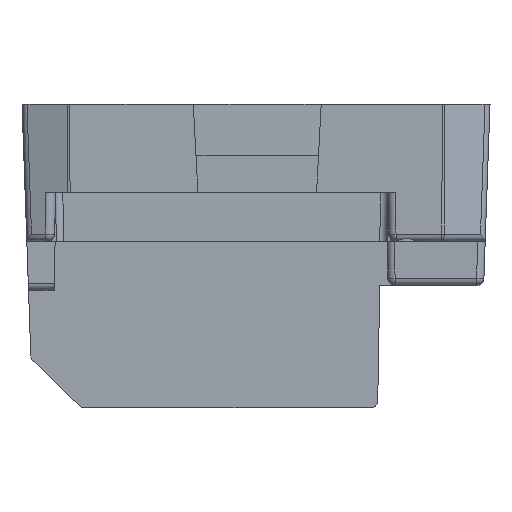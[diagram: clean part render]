
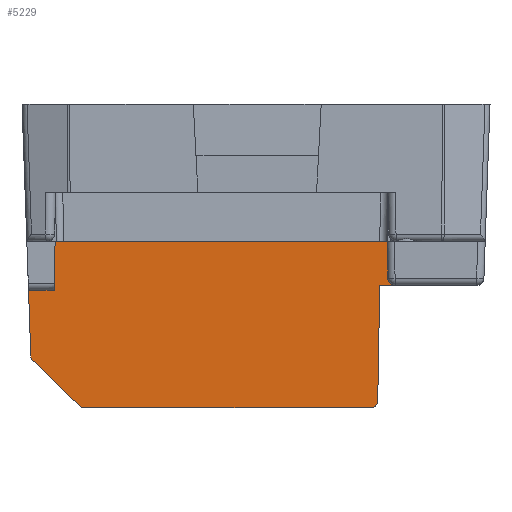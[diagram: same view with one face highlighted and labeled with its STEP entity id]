
A CAD part, left-side view. The second image highlights one B-rep face of the part: STEP entity #5229.
In plain terms, the highlighted planar face has unit normal (-1, 0, -0.017) by its records, which use the part's own axes.
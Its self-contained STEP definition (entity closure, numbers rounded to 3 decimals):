
#393=DIRECTION('',(-0.017,0.035,0.999));
#394=VECTOR('',#393,4.684);
#395=CARTESIAN_POINT('',(-13.118,18.741,-10.28));
#396=LINE('',#395,#394);
#764=DIRECTION('',(0.,1.,0.));
#765=VECTOR('',#764,0.638);
#766=CARTESIAN_POINT('',(-13.2,0.196,-5.6));
#767=LINE('',#766,#765);
#844=DIRECTION('',(0.,1.,0.));
#845=VECTOR('',#844,0.788);
#846=CARTESIAN_POINT('',(-13.2,18.116,-5.6));
#847=LINE('',#846,#845);
#946=CARTESIAN_POINT('',(-13.169,0.548,-7.4));
#947=CARTESIAN_POINT('',(-13.169,0.452,-7.4));
#948=CARTESIAN_POINT('',(-13.17,0.328,
-7.328));
#949=CARTESIAN_POINT('',(-13.172,0.252,
-7.207));
#950=CARTESIAN_POINT('',(-13.174,0.248,
-7.11));
#955=DIRECTION('',(-0.017,-0.017,1.));
#956=VECTOR('',#955,4.707);
#957=CARTESIAN_POINT('',(-13.086,4.582,-12.105));
#958=LINE('',#957,#956);
#962=CARTESIAN_POINT('',(-13.081,4.882,-12.4));
#963=CARTESIAN_POINT('',(-13.081,4.784,-12.4));
#964=CARTESIAN_POINT('',(-13.083,4.66,-12.326));
#965=CARTESIAN_POINT('',(-13.085,4.584,-12.203));
#966=CARTESIAN_POINT('',(-13.086,4.582,-12.105));
#971=CARTESIAN_POINT('',(-13.083,16.754,-12.316));
#972=CARTESIAN_POINT('',(-13.082,16.696,-12.372));
#973=CARTESIAN_POINT('',(-13.081,16.627,-12.4));
#974=CARTESIAN_POINT('',(-13.081,16.546,-12.4));
#979=DIRECTION('',(0.012,-0.719,-0.695));
#980=VECTOR('',#979,2.635);
#981=CARTESIAN_POINT('',(-13.115,18.65,-10.485));
#982=LINE('',#981,#980);
#986=CARTESIAN_POINT('',(-13.118,18.741,-10.28));
#987=CARTESIAN_POINT('',(-13.117,18.738,-10.361));
#988=CARTESIAN_POINT('',(-13.116,18.708,-10.429));
#989=CARTESIAN_POINT('',(-13.115,18.65,-10.485));
#1085=DIRECTION('',(0.017,-0.017,-1.));
#1086=VECTOR('',#1085,3.806);
#1087=CARTESIAN_POINT('',(-13.272,1.2,-1.5));
#1088=LINE('',#1087,#1086);
#2376=DIRECTION('',(-0.017,-0.035,0.999));
#2377=VECTOR('',#2376,1.512);
#2378=CARTESIAN_POINT('',(-13.174,0.248,
-7.11));
#2379=LINE('',#2378,#2377);
#2537=DIRECTION('',(0.,1.,0.));
#2538=VECTOR('',#2537,16.55);
#2539=CARTESIAN_POINT('',(-13.272,1.2,-1.5));
#2540=LINE('',#2539,#2538);
#2922=CARTESIAN_POINT('',(-13.2,0.834,-5.6));
#2923=CARTESIAN_POINT('',(-13.2,0.932,-5.6));
#2924=CARTESIAN_POINT('',(-13.201,1.056,
-5.526));
#2925=CARTESIAN_POINT('',(-13.203,1.132,
-5.403));
#2926=CARTESIAN_POINT('',(-13.205,1.134,
-5.305));
#2964=CARTESIAN_POINT('',(-13.205,17.816,
-5.305));
#2965=CARTESIAN_POINT('',(-13.203,17.818,
-5.403));
#2966=CARTESIAN_POINT('',(-13.201,17.894,
-5.526));
#2967=CARTESIAN_POINT('',(-13.2,18.018,-5.6));
#2968=CARTESIAN_POINT('',(-13.2,18.116,-5.6));
#2987=DIRECTION('',(0.017,0.017,-1.));
#2988=VECTOR('',#2987,3.806);
#2989=CARTESIAN_POINT('',(-13.272,17.75,-1.5));
#2990=LINE('',#2989,#2988);
#3707=DIRECTION('',(0.,-1.,0.));
#3708=VECTOR('',#3707,11.664);
#3709=CARTESIAN_POINT('',(-13.081,16.546,-12.4));
#3710=LINE('',#3709,#3708);
#3800=DIRECTION('',(0.,-1.,0.));
#3801=VECTOR('',#3800,3.952);
#3802=CARTESIAN_POINT('',(-13.169,4.5,-7.4));
#3803=LINE('',#3802,#3801);
#4243=CARTESIAN_POINT('',(-13.272,1.2,-1.5));
#4244=CARTESIAN_POINT('',(-13.272,17.75,-1.5));
#4245=VERTEX_POINT('',#4243);
#4246=VERTEX_POINT('',#4244);
#4259=CARTESIAN_POINT('',(-13.2,18.904,-5.6));
#4261=VERTEX_POINT('',#4259);
#4297=VERTEX_POINT('',#986);
#4298=VERTEX_POINT('',#989);
#4299=VERTEX_POINT('',#971);
#4300=VERTEX_POINT('',#974);
#4301=VERTEX_POINT('',#962);
#4302=VERTEX_POINT('',#966);
#4303=VERTEX_POINT('',#946);
#4304=VERTEX_POINT('',#950);
#4315=CARTESIAN_POINT('',(-13.2,0.196,-5.6));
#4316=VERTEX_POINT('',#4315);
#4317=CARTESIAN_POINT('',(-13.169,4.5,-7.4));
#4318=VERTEX_POINT('',#4317);
#4447=CARTESIAN_POINT('',(-13.205,1.134,
-5.305));
#4449=VERTEX_POINT('',#4447);
#4451=CARTESIAN_POINT('',(-13.2,0.834,-5.6));
#4453=VERTEX_POINT('',#4451);
#4461=CARTESIAN_POINT('',(-13.2,18.116,-5.6));
#4462=VERTEX_POINT('',#4461);
#4463=CARTESIAN_POINT('',(-13.205,17.816,
-5.305));
#4464=VERTEX_POINT('',#4463);
#5192=CARTESIAN_POINT('',(-13.2,-0.684,-5.6));
#5193=DIRECTION('',(-1.,0.,-0.017));
#5194=DIRECTION('',(0.,1.,0.));
#5195=AXIS2_PLACEMENT_3D('',#5192,#5193,#5194);
#5196=PLANE('',#5195);
#5198=ORIENTED_EDGE('',*,*,#5197,.T.);
#5200=ORIENTED_EDGE('',*,*,#5199,.F.);
#5201=ORIENTED_EDGE('',*,*,#5105,.F.);
#5203=ORIENTED_EDGE('',*,*,#5202,.F.);
#5205=ORIENTED_EDGE('',*,*,#5204,.F.);
#5207=ORIENTED_EDGE('',*,*,#5206,.F.);
#5209=ORIENTED_EDGE('',*,*,#5208,.F.);
#5211=ORIENTED_EDGE('',*,*,#5210,.F.);
#5213=ORIENTED_EDGE('',*,*,#5212,.F.);
#5215=ORIENTED_EDGE('',*,*,#5214,.F.);
#5217=ORIENTED_EDGE('',*,*,#5216,.F.);
#5218=ORIENTED_EDGE('',*,*,#5185,.F.);
#5219=ORIENTED_EDGE('',*,*,#4934,.T.);
#5220=ORIENTED_EDGE('',*,*,#5125,.F.);
#5222=ORIENTED_EDGE('',*,*,#5221,.F.);
#5224=ORIENTED_EDGE('',*,*,#5223,.F.);
#5226=ORIENTED_EDGE('',*,*,#5225,.F.);
#5227=EDGE_LOOP('',(#5198,#5200,#5201,#5203,#5205,#5207,#5209,#5211,#5213,#5215,
#5217,#5218,#5219,#5220,#5222,#5224,#5226));
#5228=FACE_OUTER_BOUND('',#5227,.F.);
#5229=ADVANCED_FACE('',(#5228),#5196,.T.);
#951=B_SPLINE_CURVE_WITH_KNOTS('',3,(#946,#947,#948,#949,#950),.UNSPECIFIED.,
.F.,.F.,(4,1,4),(0.,0.5,1.),.UNSPECIFIED.);
#967=B_SPLINE_CURVE_WITH_KNOTS('',3,(#962,#963,#964,#965,#966),.UNSPECIFIED.,
.F.,.F.,(4,1,4),(0.,0.5,1.),.UNSPECIFIED.);
#975=B_SPLINE_CURVE_WITH_KNOTS('',3,(#971,#972,#973,#974),.UNSPECIFIED.,.F.,.F.,
(4,4),(0.,1.),.UNSPECIFIED.);
#990=B_SPLINE_CURVE_WITH_KNOTS('',3,(#986,#987,#988,#989),.UNSPECIFIED.,.F.,.F.,
(4,4),(0.,1.),.UNSPECIFIED.);
#2927=B_SPLINE_CURVE_WITH_KNOTS('',3,(#2922,#2923,#2924,#2925,#2926),
.UNSPECIFIED.,.F.,.F.,(4,1,4),(0.,0.5,1.),.UNSPECIFIED.);
#2969=B_SPLINE_CURVE_WITH_KNOTS('',3,(#2964,#2965,#2966,#2967,#2968),
.UNSPECIFIED.,.F.,.F.,(4,1,4),(0.,0.5,1.),.UNSPECIFIED.);
#4934=EDGE_CURVE('',#4297,#4261,#396,.T.);
#5105=EDGE_CURVE('',#4316,#4453,#767,.T.);
#5125=EDGE_CURVE('',#4462,#4261,#847,.T.);
#5185=EDGE_CURVE('',#4297,#4298,#990,.T.);
#5197=EDGE_CURVE('',#4245,#4449,#1088,.T.);
#5199=EDGE_CURVE('',#4453,#4449,#2927,.T.);
#5202=EDGE_CURVE('',#4304,#4316,#2379,.T.);
#5204=EDGE_CURVE('',#4303,#4304,#951,.T.);
#5206=EDGE_CURVE('',#4318,#4303,#3803,.T.);
#5208=EDGE_CURVE('',#4302,#4318,#958,.T.);
#5210=EDGE_CURVE('',#4301,#4302,#967,.T.);
#5212=EDGE_CURVE('',#4300,#4301,#3710,.T.);
#5214=EDGE_CURVE('',#4299,#4300,#975,.T.);
#5216=EDGE_CURVE('',#4298,#4299,#982,.T.);
#5221=EDGE_CURVE('',#4464,#4462,#2969,.T.);
#5223=EDGE_CURVE('',#4246,#4464,#2990,.T.);
#5225=EDGE_CURVE('',#4245,#4246,#2540,.T.);
